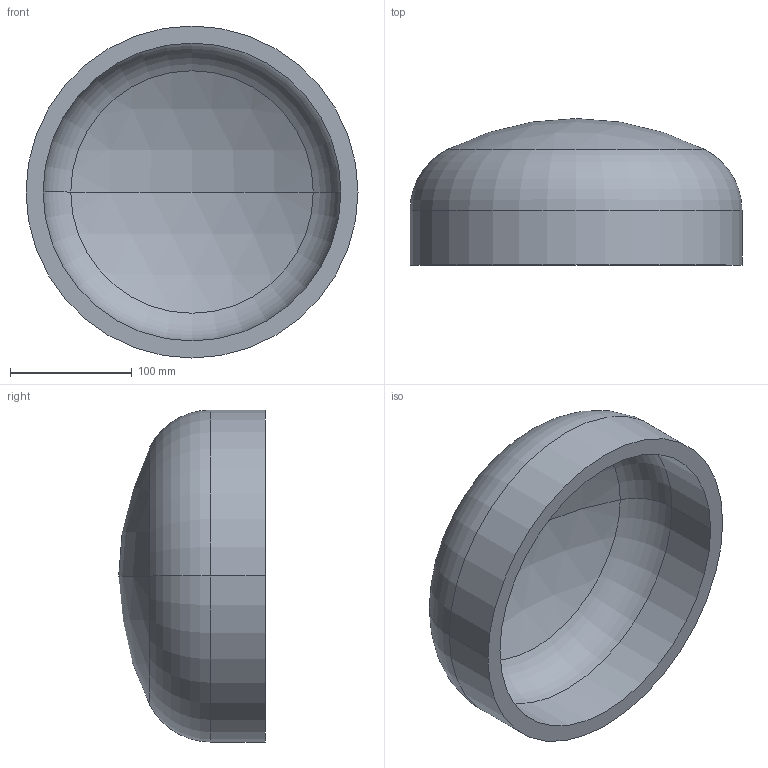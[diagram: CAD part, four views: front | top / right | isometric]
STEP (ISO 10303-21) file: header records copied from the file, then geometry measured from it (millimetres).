
FILE_DESCRIPTION (( 'STEP AP203' ), '1' );
FILE_NAME ('DIN 28013 Korbbogenform_-_Boden DIN 28013 - 273 x 45 - I - s=14.step', '2016-07-01T07:43:13', ( '' ), ( '' ), 'SwSTEP 2.0', 'SolidWorks 2013', '' );
FILE_SCHEMA (( 'CONFIG_CONTROL_DESIGN' ));
Length unit declared in the file: millimetre
Products named in the file (1): DIN 28013 Korbbogenform_-_Boden DIN 28013 - 273 x 45 - I - s=14
Bounding box: 273 x 120.49 x 273 mm (x, y, z)
Volume: 1575175 mm3; surface area: 236826.9 mm2
Topology: 1 solids, 1 shells, 13 faces, 24 edges, 14 vertices
Faces by surface type: torus 4, cylinder 4, sphere 4, plane 1
Entity records: 407 total; most frequent: DIRECTION 72, CARTESIAN_POINT 52, ORIENTED_EDGE 48, AXIS2_PLACEMENT_3D 34, EDGE_CURVE 24, CIRCLE 20, EDGE_LOOP 14, VERTEX_POINT 14
